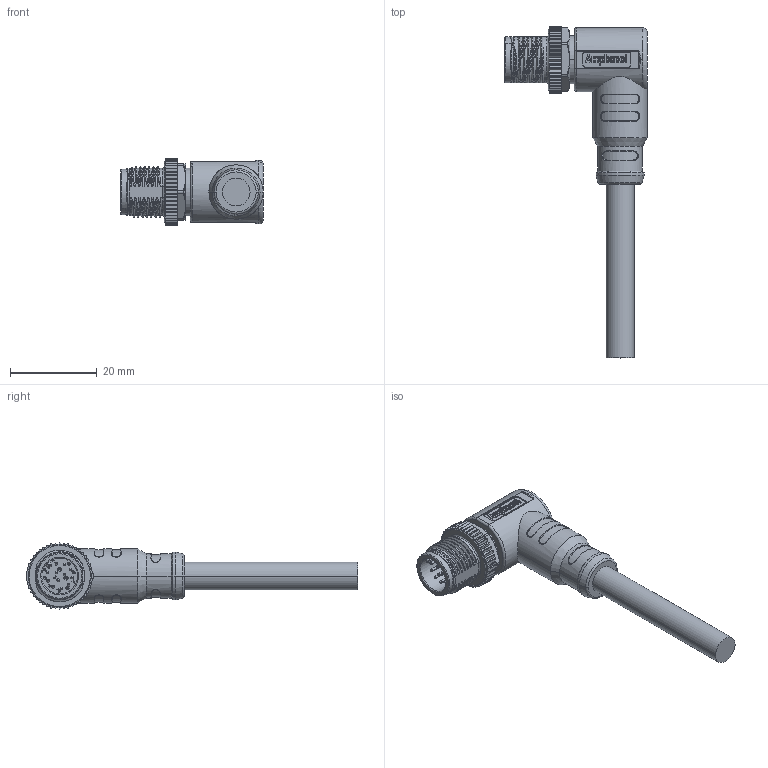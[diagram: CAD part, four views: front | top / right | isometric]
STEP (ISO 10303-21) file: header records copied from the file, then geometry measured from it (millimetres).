
FILE_DESCRIPTION((''),'2;1');
FILE_NAME('MSAS-12BMMM-SR8BXX_SW0001','2021-03-18T',('L190015'),(''),'PRO/ENGINEER BY PARAMETRIC TECHNOLOGY CORPORATION, 2017170','PRO/ENGINEER BY PARAMETRIC TECHNOLOGY CORPORATION, 2017170','');
FILE_SCHEMA(('CONFIG_CONTROL_DESIGN'));
Length unit declared in the file: millimetre
Products named in the file (1): MSAS-12BMMM-SR8BXX_SW0001
Bounding box: 32.8 x 76.4 x 15.3 mm (x, y, z)
Volume: 7742.8 mm3; surface area: 4978.8 mm2
Topology: 2 solids, 2 shells, 1030 faces, 2652 edges, 1676 vertices
Faces by surface type: plane 417, cylinder 202, bspline 180, extrusion 133, torus 38, sphere 36, cone 24
Entity records: 78050 total; most frequent: CARTESIAN_POINT 47120, ORIENTED_EDGE 5256, DIRECTION 4064, EDGE_CURVE 2628, VERTEX_POINT 1676, VECTOR 1546, LINE 1413, AXIS2_PLACEMENT_3D 1259
